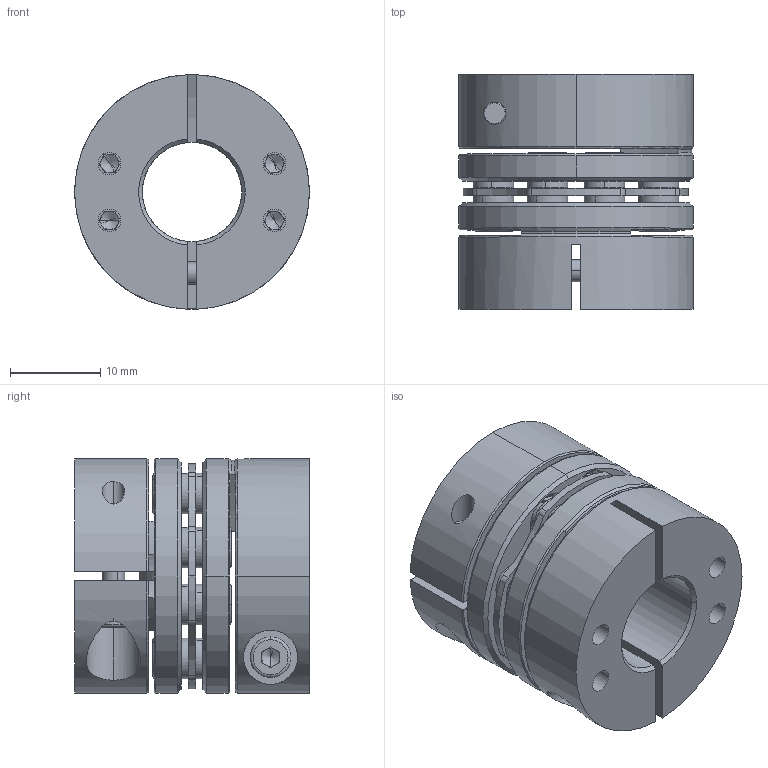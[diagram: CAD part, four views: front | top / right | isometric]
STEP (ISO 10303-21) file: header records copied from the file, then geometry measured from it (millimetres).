
FILE_DESCRIPTION (( 'STEP AP203' ), '1' );
FILE_NAME ('LDG-D26-11-11.STEP', '2021-10-28T04:31:00', ( '' ), ( '' ), 'SwSTEP 2.0', 'SolidWorks 2018', '' );
FILE_SCHEMA (( 'CONFIG_CONTROL_DESIGN' ));
Length unit declared in the file: millimetre
Products named in the file (2): 錨璃2^LDG-D26蚾饜芞1; LDG-D26-11-11
Assembly tree (1 placements, depth 2):
  LDG-D26-11-11
    錨璃2^LDG-D26蚾饜芞1
Bounding box: 26 x 26 x 26 mm (x, y, z)
Volume: 9169 mm3; surface area: 8818.8 mm2
Topology: 1 solids, 21 shells, 765 faces, 1872 edges, 1159 vertices
Faces by surface type: cylinder 301, plane 244, cone 200, torus 20
Entity records: 23057 total; most frequent: DIRECTION 4281, CARTESIAN_POINT 4164, ORIENTED_EDGE 3688, EDGE_CURVE 1844, AXIS2_PLACEMENT_3D 1740, VERTEX_POINT 1159, CIRCLE 971, EDGE_LOOP 909
